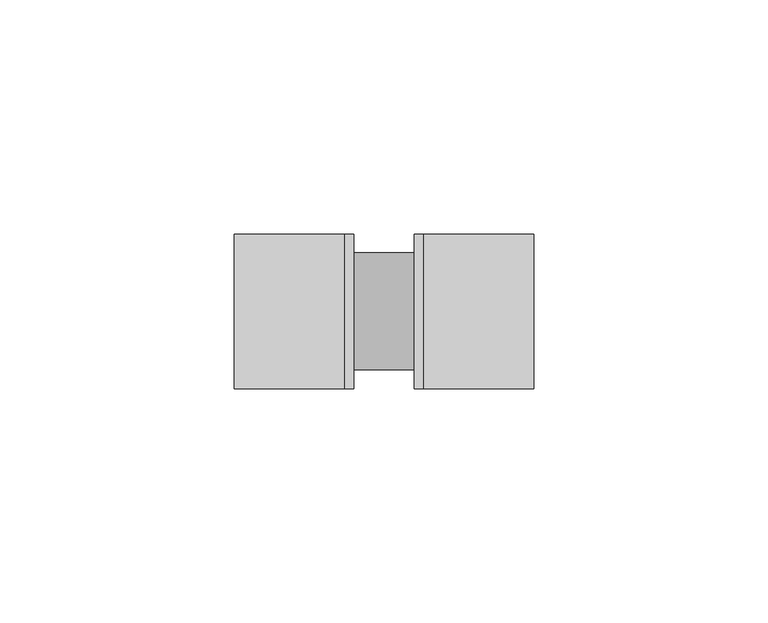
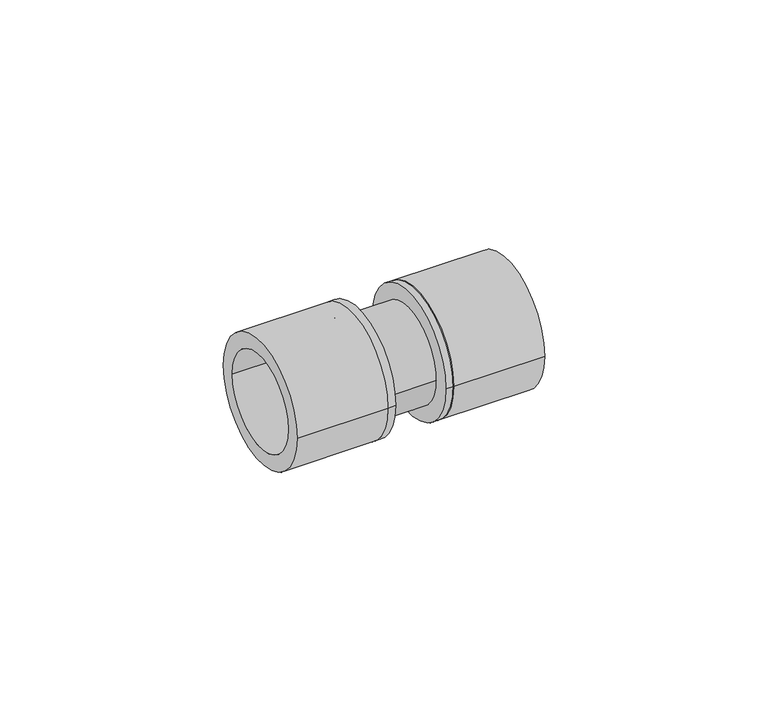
"""IFC4 building model written with IfcOpenShell, lengths in millimetres: pipe fitting geometry, ADSK_Пресс-фитинг ПЭ_Муфта соединительная : Пластик черный."""

from ifc_helpers import new_model, si_unit, point, frame, origin, origin_2d, place, context, project, spatial, circle_curve, trimmed, segment, composite_curve, outline, extrude, source, transform, mapped, element, save


def pipe_fitting_8d19ce67(model_context):
    return source(origin(), model_context, "Body", "SweptSolid", [
        extrude(outline(composite_curve([segment(trimmed(circle_curve(origin_2d(), 16.5), [point((-16.5, 0.0))], [point((16.5, 0.0))], False, "CARTESIAN"), True, "CONTINUOUS"), segment(trimmed(circle_curve(origin_2d(), 16.5), [point((16.5, 0.0))], [point((-16.5, 0.0))], False, "CARTESIAN"), True, "CONTINUOUS")], self_intersect=False), holes=[composite_curve([segment(trimmed(circle_curve(origin_2d(), 12.5), [point((-12.5, 0.0))], [point((12.5, 0.0))], True, "CARTESIAN"), True, "CONTINUOUS"), segment(trimmed(circle_curve(origin_2d(), 12.5), [point((12.5, 0.0))], [point((-12.5, 0.0))], True, "CARTESIAN"), True, "CONTINUOUS")], self_intersect=False)]), frame((8.5, 0.0, 0.0), z_axis=(1.0, 0.0, 0.0), x_axis=(0.0, 1.0, 0.0)), (0.0, 0.0, 1.0), 23.5),
        extrude(outline(composite_curve([segment(trimmed(circle_curve(origin_2d(), 16.5), [point((-16.5, 0.0))], [point((16.5, 0.0))], False, "CARTESIAN"), True, "CONTINUOUS"), segment(trimmed(circle_curve(origin_2d(), 16.5), [point((16.5, 0.0))], [point((-16.5, 0.0))], False, "CARTESIAN"), True, "CONTINUOUS")], self_intersect=False), holes=[composite_curve([segment(trimmed(circle_curve(origin_2d(), 12.5), [point((-12.5, 0.0))], [point((12.5, 0.0))], True, "CARTESIAN"), True, "CONTINUOUS"), segment(trimmed(circle_curve(origin_2d(), 12.5), [point((12.5, 0.0))], [point((-12.5, 0.0))], True, "CARTESIAN"), True, "CONTINUOUS")], self_intersect=False)]), frame((-32.0, 0.0, 0.0), z_axis=(1.0, 0.0, 0.0), x_axis=(0.0, 1.0, 0.0)), (0.0, 0.0, 1.0), 23.5),
        extrude(outline(composite_curve([segment(trimmed(circle_curve(origin_2d(), 16.5), [point((-16.5, 0.0))], [point((16.5, 0.0))], False, "CARTESIAN"), True, "CONTINUOUS"), segment(trimmed(circle_curve(origin_2d(), 16.5), [point((16.5, 0.0))], [point((-16.5, 0.0))], False, "CARTESIAN"), True, "CONTINUOUS")], self_intersect=False)), frame((6.5, 0.0, 0.0), z_axis=(1.0, 0.0, 0.0), x_axis=(0.0, 1.0, 0.0)), (0.0, 0.0, 1.0), 2.0),
        extrude(outline(composite_curve([segment(trimmed(circle_curve(origin_2d(), 16.5), [point((-16.5, 0.0))], [point((16.5, 0.0))], False, "CARTESIAN"), True, "CONTINUOUS"), segment(trimmed(circle_curve(origin_2d(), 16.5), [point((16.5, 0.0))], [point((-16.5, 0.0))], False, "CARTESIAN"), True, "CONTINUOUS")], self_intersect=False)), frame((-8.5, 0.0, 0.0), z_axis=(1.0, 0.0, 0.0), x_axis=(0.0, 1.0, 0.0)), (0.0, 0.0, 1.0), 2.0),
        extrude(outline(composite_curve([segment(trimmed(circle_curve(origin_2d(), 12.5), [point((-12.5, 0.0))], [point((12.5, 0.0))], False, "CARTESIAN"), True, "CONTINUOUS"), segment(trimmed(circle_curve(origin_2d(), 12.5), [point((12.5, 0.0))], [point((-12.5, 0.0))], False, "CARTESIAN"), True, "CONTINUOUS")], self_intersect=False)), frame((-6.5, 0.0, 0.0), z_axis=(1.0, 0.0, 0.0), x_axis=(0.0, 1.0, 0.0)), (0.0, 0.0, 1.0), 13.0),
    ])


if __name__ == "__main__":
    model = new_model("IFC4")
    model_context = context("Model", 3, world=origin())
    ifc_project = project(units=[si_unit("LENGTHUNIT", "METRE", prefix="MILLI")], contexts=[model_context])
    site = spatial("IfcSite", under=ifc_project)
    building = spatial("IfcBuilding", under=site)
    placement = place(None, origin())
    pipe_fitting_shape = pipe_fitting_8d19ce67(model_context)
    element("IfcPipeFitting", 1, ObjectType="ADSK_Пресс-фитинг ПЭ_Муфта соединительная : Пластик черный", at=placement, inside=building, context=model_context, shape_type="MappedRepresentation", body=[
        mapped(pipe_fitting_shape, transform((0.0, 0.0, 0.0), x_axis=(1.0, 0.0, 0.0), y_axis=(0.0, 1.0, 0.0), z_axis=(0.0, 0.0, 1.0))),
    ])
    save(model, "model.ifc")
